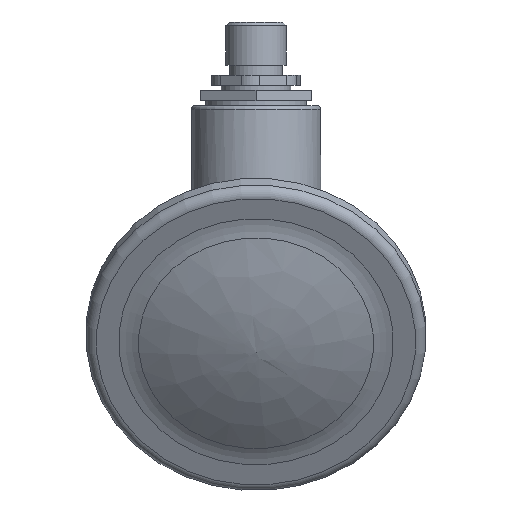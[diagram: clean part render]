
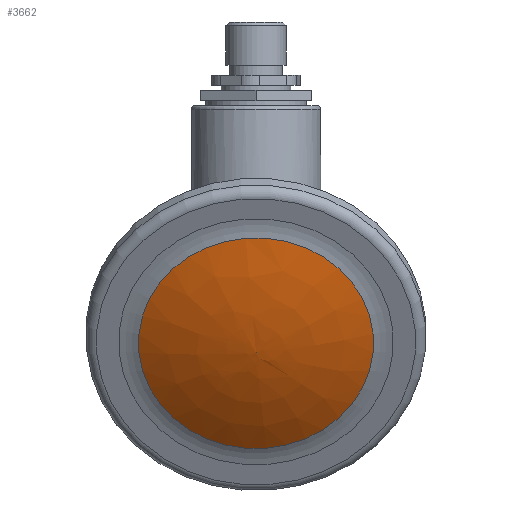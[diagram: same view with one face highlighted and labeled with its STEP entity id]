
A CAD part, left-side view. The second image highlights one B-rep face of the part: STEP entity #3662.
In plain terms, the highlighted free-form (B-spline) face has degree [3, 3] with [5, 19] control points.
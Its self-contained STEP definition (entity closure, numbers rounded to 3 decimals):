
#21=VERTEX_LOOP('',#1473);
#24=B_SPLINE_SURFACE_WITH_KNOTS('',3,3,((#6772,#6773,#6774,#6775,#6776,
#6777,#6778,#6779,#6780,#6781,#6782,#6783,#6784,#6785,#6786,#6787,#6788,
#6789,#6790),(#6791,#6792,#6793,#6794,#6795,#6796,#6797,#6798,#6799,#6800,
#6801,#6802,#6803,#6804,#6805,#6806,#6807,#6808,#6809),(#6810,#6811,#6812,
#6813,#6814,#6815,#6816,#6817,#6818,#6819,#6820,#6821,#6822,#6823,#6824,
#6825,#6826,#6827,#6828),(#6829,#6830,#6831,#6832,#6833,#6834,#6835,#6836,
#6837,#6838,#6839,#6840,#6841,#6842,#6843,#6844,#6845,#6846,#6847),(#6848,
#6849,#6850,#6851,#6852,#6853,#6854,#6855,#6856,#6857,#6858,#6859,#6860,
#6861,#6862,#6863,#6864,#6865,#6866)),.UNSPECIFIED.,.F.,.T.,.F.,(4,1,4),
(1,1,1,1,1,1,1,1,1,1,1,1,1,1,1,1,1,1,1,1,1,1,1),(0.,0.49,0.98),
(-1.178,-0.785,-0.393,0.,0.393,
0.785,1.178,1.571,1.963,2.356,
2.749,3.142,3.534,3.927,4.32,
4.712,5.105,5.498,5.89,6.283,
6.676,7.069,7.461),.UNSPECIFIED.);
#760=ORIENTED_EDGE('',*,*,#1211,.T.);
#1211=EDGE_CURVE('',#1474,#1474,#1663,.T.);
#1473=VERTEX_POINT('',#6867);
#1474=VERTEX_POINT('',#6869);
#1663=CIRCLE('',#3917,23.177);
#1853=EDGE_LOOP('',(#760));
#2120=FACE_BOUND('',#21,.T.);
#2121=FACE_BOUND('',#1853,.T.);
#3662=ADVANCED_FACE('',(#2120,#2121),#24,.F.);
#3917=AXIS2_PLACEMENT_3D('',#6868,#4427,#4428);
#4427=DIRECTION('',(-0.896,0.,-0.444));
#4428=DIRECTION('',(0.039,0.996,-0.078));
#6772=CARTESIAN_POINT('',(-42.546,0.,-5.716));
#6773=CARTESIAN_POINT('',(-42.546,0.,-5.716));
#6774=CARTESIAN_POINT('',(-42.546,0.,-5.716));
#6775=CARTESIAN_POINT('',(-42.546,0.,-5.716));
#6776=CARTESIAN_POINT('',(-42.546,0.,-5.716));
#6777=CARTESIAN_POINT('',(-42.546,0.,-5.716));
#6778=CARTESIAN_POINT('',(-42.546,0.,-5.716));
#6779=CARTESIAN_POINT('',(-42.546,0.,-5.716));
#6780=CARTESIAN_POINT('',(-42.546,0.,-5.716));
#6781=CARTESIAN_POINT('',(-42.546,0.,-5.716));
#6782=CARTESIAN_POINT('',(-42.546,0.,-5.716));
#6783=CARTESIAN_POINT('',(-42.546,0.,-5.716));
#6784=CARTESIAN_POINT('',(-42.546,0.,-5.716));
#6785=CARTESIAN_POINT('',(-42.546,0.,-5.716));
#6786=CARTESIAN_POINT('',(-42.546,0.,-5.716));
#6787=CARTESIAN_POINT('',(-42.546,0.,-5.716));
#6788=CARTESIAN_POINT('',(-42.546,0.,-5.716));
#6789=CARTESIAN_POINT('',(-42.546,0.,-5.716));
#6790=CARTESIAN_POINT('',(-42.546,0.,-5.716));
#6791=CARTESIAN_POINT('',(-44.026,1.861,-2.464));
#6792=CARTESIAN_POINT('',(-44.221,0.353,-2.07));
#6793=CARTESIAN_POINT('',(-44.145,-1.209,-2.222));
#6794=CARTESIAN_POINT('',(-43.81,-2.587,-2.899));
#6795=CARTESIAN_POINT('',(-43.267,-3.57,-3.997));
#6796=CARTESIAN_POINT('',(-42.598,-4.011,-5.348));
#6797=CARTESIAN_POINT('',(-41.905,-3.84,-6.748));
#6798=CARTESIAN_POINT('',(-41.294,-3.085,-7.982));
#6799=CARTESIAN_POINT('',(-40.857,-1.861,-8.864));
#6800=CARTESIAN_POINT('',(-40.662,-0.353,-9.258));
#6801=CARTESIAN_POINT('',(-40.738,1.209,-9.106));
#6802=CARTESIAN_POINT('',(-41.073,2.587,-8.429));
#6803=CARTESIAN_POINT('',(-41.616,3.57,-7.332));
#6804=CARTESIAN_POINT('',(-42.285,4.011,-5.98));
#6805=CARTESIAN_POINT('',(-42.978,3.84,-4.581));
#6806=CARTESIAN_POINT('',(-43.589,3.085,-3.346));
#6807=CARTESIAN_POINT('',(-44.026,1.861,-2.464));
#6808=CARTESIAN_POINT('',(-44.221,0.353,-2.07));
#6809=CARTESIAN_POINT('',(-44.145,-1.209,-2.222));
#6810=CARTESIAN_POINT('',(-46.461,5.595,4.326));
#6811=CARTESIAN_POINT('',(-47.049,1.06,5.513));
#6812=CARTESIAN_POINT('',(-46.821,-3.636,5.054));
#6813=CARTESIAN_POINT('',(-45.814,-7.778,3.019));
#6814=CARTESIAN_POINT('',(-44.18,-10.737,-0.282));
#6815=CARTESIAN_POINT('',(-42.168,-12.061,-4.346));
#6816=CARTESIAN_POINT('',(-40.085,-11.548,-8.554));
#6817=CARTESIAN_POINT('',(-38.247,-9.278,-12.267));
#6818=CARTESIAN_POINT('',(-36.934,-5.595,-14.918));
#6819=CARTESIAN_POINT('',(-36.347,-1.06,-16.105));
#6820=CARTESIAN_POINT('',(-36.574,3.636,-15.646));
#6821=CARTESIAN_POINT('',(-37.582,7.778,-13.611));
#6822=CARTESIAN_POINT('',(-39.216,10.737,-10.31));
#6823=CARTESIAN_POINT('',(-41.227,12.061,-6.246));
#6824=CARTESIAN_POINT('',(-43.311,11.548,-2.038));
#6825=CARTESIAN_POINT('',(-45.149,9.278,1.675));
#6826=CARTESIAN_POINT('',(-46.461,5.595,4.326));
#6827=CARTESIAN_POINT('',(-47.049,1.06,5.513));
#6828=CARTESIAN_POINT('',(-46.821,-3.636,5.054));
#6829=CARTESIAN_POINT('',(-47.756,9.229,11.465));
#6830=CARTESIAN_POINT('',(-48.725,1.749,13.422));
#6831=CARTESIAN_POINT('',(-48.35,-5.997,12.665));
#6832=CARTESIAN_POINT('',(-46.689,-12.83,9.309));
#6833=CARTESIAN_POINT('',(-43.994,-17.709,3.865));
#6834=CARTESIAN_POINT('',(-40.675,-19.893,-2.838));
#6835=CARTESIAN_POINT('',(-37.239,-19.048,-9.78));
#6836=CARTESIAN_POINT('',(-34.207,-15.303,-15.903));
#6837=CARTESIAN_POINT('',(-32.042,-9.229,-20.277));
#6838=CARTESIAN_POINT('',(-31.073,-1.749,-22.233));
#6839=CARTESIAN_POINT('',(-31.448,5.997,-21.476));
#6840=CARTESIAN_POINT('',(-33.11,12.83,-18.12));
#6841=CARTESIAN_POINT('',(-35.805,17.709,-12.676));
#6842=CARTESIAN_POINT('',(-39.123,19.893,-5.973));
#6843=CARTESIAN_POINT('',(-42.56,19.048,0.969));
#6844=CARTESIAN_POINT('',(-45.591,15.303,7.092));
#6845=CARTESIAN_POINT('',(-47.756,9.229,11.465));
#6846=CARTESIAN_POINT('',(-48.725,1.749,13.422));
#6847=CARTESIAN_POINT('',(-48.35,-5.997,12.665));
#6848=CARTESIAN_POINT('',(-48.11,10.99,15.061));
#6849=CARTESIAN_POINT('',(-49.264,2.083,17.391));
#6850=CARTESIAN_POINT('',(-48.817,-7.141,16.489));
#6851=CARTESIAN_POINT('',(-46.839,-15.278,12.493));
#6852=CARTESIAN_POINT('',(-43.63,-21.088,6.01));
#6853=CARTESIAN_POINT('',(-39.678,-23.689,-1.972));
#6854=CARTESIAN_POINT('',(-35.586,-22.683,-10.238));
#6855=CARTESIAN_POINT('',(-31.976,-18.223,-17.53));
#6856=CARTESIAN_POINT('',(-29.398,-10.99,-22.738));
#6857=CARTESIAN_POINT('',(-28.244,-2.083,-25.068));
#6858=CARTESIAN_POINT('',(-28.691,7.141,-24.167));
#6859=CARTESIAN_POINT('',(-30.669,15.278,-20.17));
#6860=CARTESIAN_POINT('',(-33.878,21.088,-13.688));
#6861=CARTESIAN_POINT('',(-37.83,23.689,-5.705));
#6862=CARTESIAN_POINT('',(-41.922,22.683,2.561));
#6863=CARTESIAN_POINT('',(-45.532,18.223,9.853));
#6864=CARTESIAN_POINT('',(-48.11,10.99,15.061));
#6865=CARTESIAN_POINT('',(-49.264,2.083,17.391));
#6866=CARTESIAN_POINT('',(-48.817,-7.141,16.489));
#6867=CARTESIAN_POINT('',(-42.546,0.,-5.716));
#6868=CARTESIAN_POINT('',(-38.754,0.,-3.839));
#6869=CARTESIAN_POINT('',(-37.853,23.088,-5.658));
